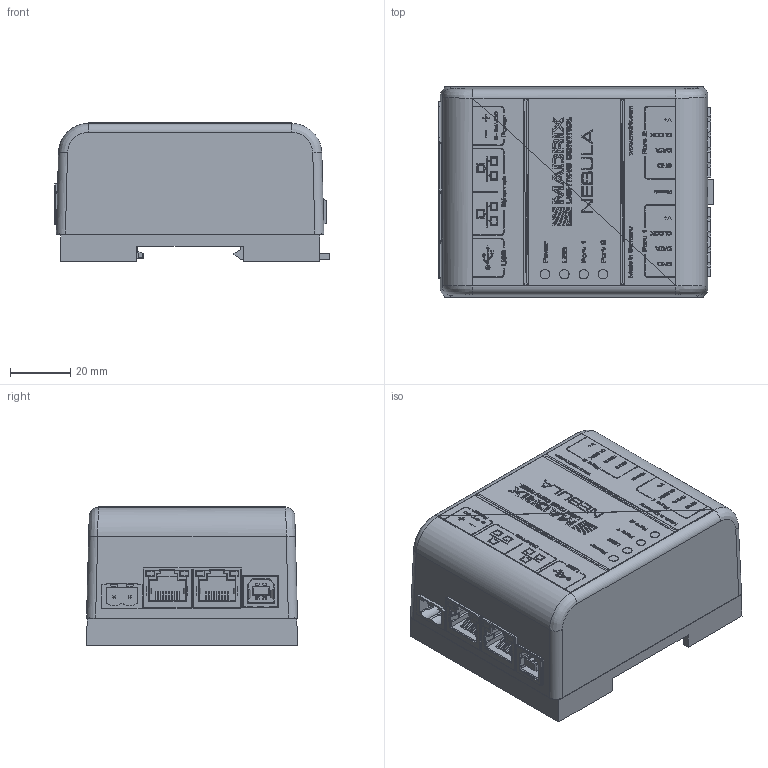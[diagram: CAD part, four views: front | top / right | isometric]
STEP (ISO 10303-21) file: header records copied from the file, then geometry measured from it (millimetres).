
FILE_DESCRIPTION(/* description */ (''),/* implementation_level */ '2;1');
FILE_NAME(/* name */ 'HT5046~1',/* time_stamp */ '2024-09-10T13:53:36+02:00',/* author */ (''),/* organization */ (''),/* preprocessor_version */ 'ST-DEVELOPER v16.5',/* originating_system */ '',/* authorisation */ '');
FILE_SCHEMA (('AUTOMOTIVE_DESIGN'));
Products named in the file (3): Document; Nebula; Print
Assembly tree (2 placements, depth 3):
  Document
    Nebula
      Print
Bounding box: 91.27 x 69.98 x 46.11 mm (x, y, z)
Volume: 1068.3 mm3; surface area: 55269.6 mm2
Topology: 6 solids, 169 shells, 25190 faces, 44005 edges, 18881 vertices
Faces by surface type: plane 24799, bspline 391
Entity records: 480413 total; most frequent: CARTESIAN_POINT 142681, ORIENTED_EDGE 79762, EDGE_CURVE 43922, B_SPLINE_CURVE_WITH_KNOTS 43225, EDGE_LOOP 25255, ADVANCED_FACE 25171, FACE_OUTER_BOUND 25171, DIRECTION 24796
